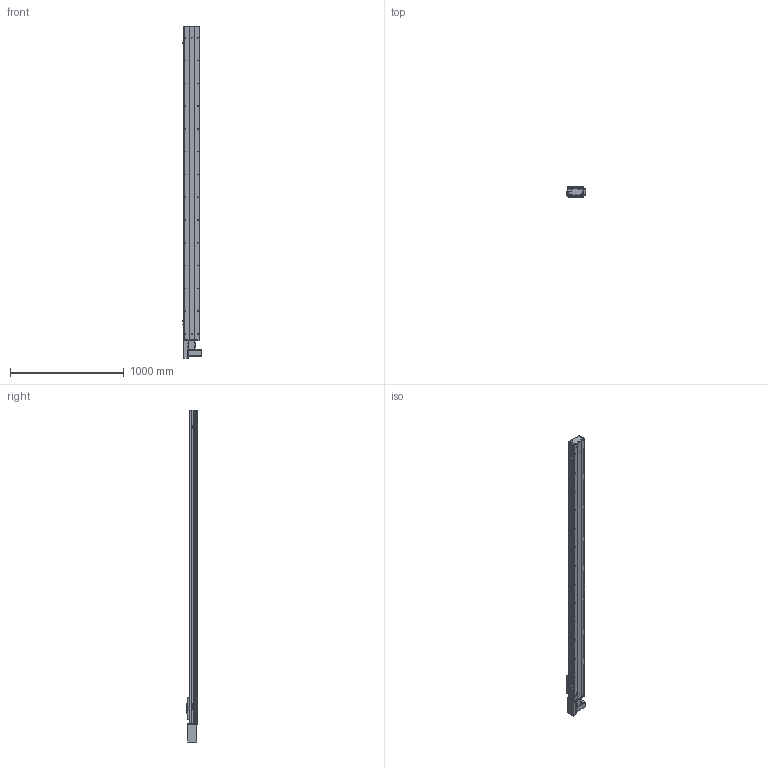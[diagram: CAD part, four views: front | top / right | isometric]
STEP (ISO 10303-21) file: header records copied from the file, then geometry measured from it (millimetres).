
FILE_DESCRIPTION (( 'STEP AP203' ), '1' );
FILE_NAME ('Y135CB-D90-S2450-BR-P400W.STEP', '2020-02-18T03:05:08', ( '微软用户' ), ( '微软中国' ), 'SwSTEP 2.0', 'SolidWorks 2017', '' );
FILE_SCHEMA (( 'CONFIG_CONTROL_DESIGN' ));
Length unit declared in the file: millimetre
Products named in the file (18): C-雄赽釱--; Y100-135俋离換覜ん--; Y俋欶BR----; Y10B--々湍喘謫眊--666; Y135C-陔俋离換覜結え-; 0B-埴倛裔啣; Y135CB-D90-S2450-BR-P400W; 0B-源倛裔啣; 0B-萇儂楊擘啣; san松下电机400不带刹车----; Y135CB-耜裔; 5CB --掛极耜裔啣-; 135CB---遴掛极.-; C-詩湍揤踡え-陔; 35CB---喘謫眊楊擘啣; 5C--俋欶; 135CB--詩湍-CE; Y10B-耜蚾蟀諉啣----
Assembly tree (21 placements, depth 2):
  Y135CB-D90-S2450-BR-P400W
    Y135CB-耜裔
    135CB---遴掛极.-
    35CB---喘謫眊楊擘啣
    Y10B-耜蚾蟀諉啣----
    Y俋欶BR----
    0B-埴倛裔啣
    0B-源倛裔啣
    0B-萇儂楊擘啣
    san松下电机400不带刹车----
    5CB --掛极耜裔啣-  x2
    C-詩湍揤踡え-陔  x2
    135CB--詩湍-CE
    Y100-135俋离換覜ん--  x3
    Y135C-陔俋离換覜結え-
    5C--俋欶
    C-雄赽釱--
    Y10B--々湍喘謫眊--666
Bounding box: 167.5 x 91 x 2914.5 mm (x, y, z)
Volume: 8152880.6 mm3; surface area: 3228956.8 mm2
Topology: 21 solids, 21 shells, 973 faces, 2653 edges, 1758 vertices
Faces by surface type: cylinder 499, plane 458, cone 16
Entity records: 30867 total; most frequent: CARTESIAN_POINT 5232, DIRECTION 5109, ORIENTED_EDGE 4782, EDGE_CURVE 2391, AXIS2_PLACEMENT_3D 1871, VERTEX_POINT 1586, VECTOR 1367, LINE 1367
